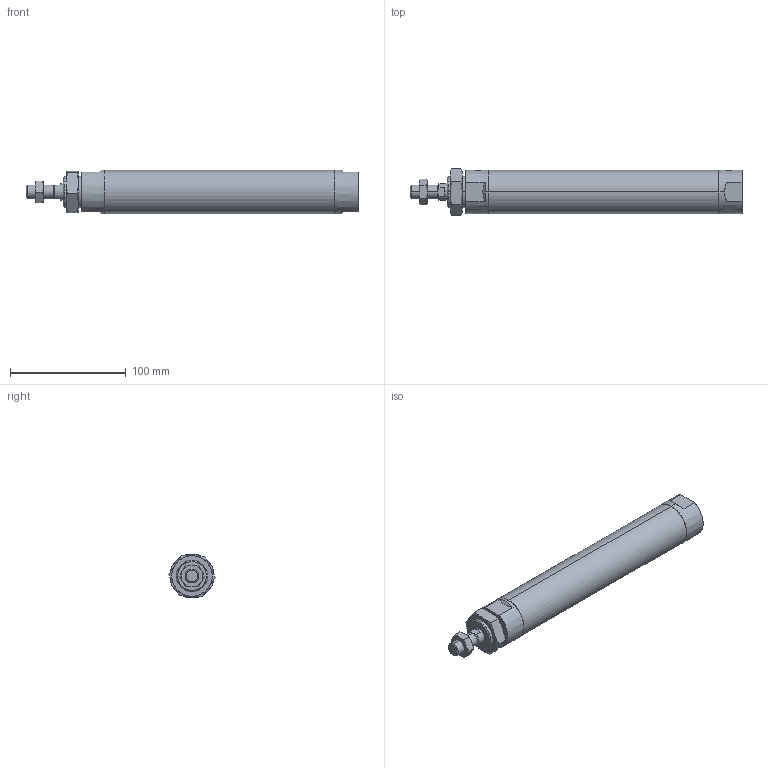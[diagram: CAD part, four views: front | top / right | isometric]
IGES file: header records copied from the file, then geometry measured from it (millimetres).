
Start section: SolidWorks IGES file using analytic representation for surfaces
Global section: file name: C:\Users\Toshiba\Desktop\JGND2-32-150-N.IGS; native system: SolidWorks 2014; preprocessor: SolidWorks 2014; author: Toshiba; date: 160804.105508; units: millimetre
Bounding box: 287 x 40.33 x 38 mm (x, y, z)
Surface area: 38434.6 mm2 (no closed solid volume)
Topology: 0 solids, 0 shells, 89 faces, 1572 edges, 1568 vertices
Faces by surface type: bspline 56, revolution 33
